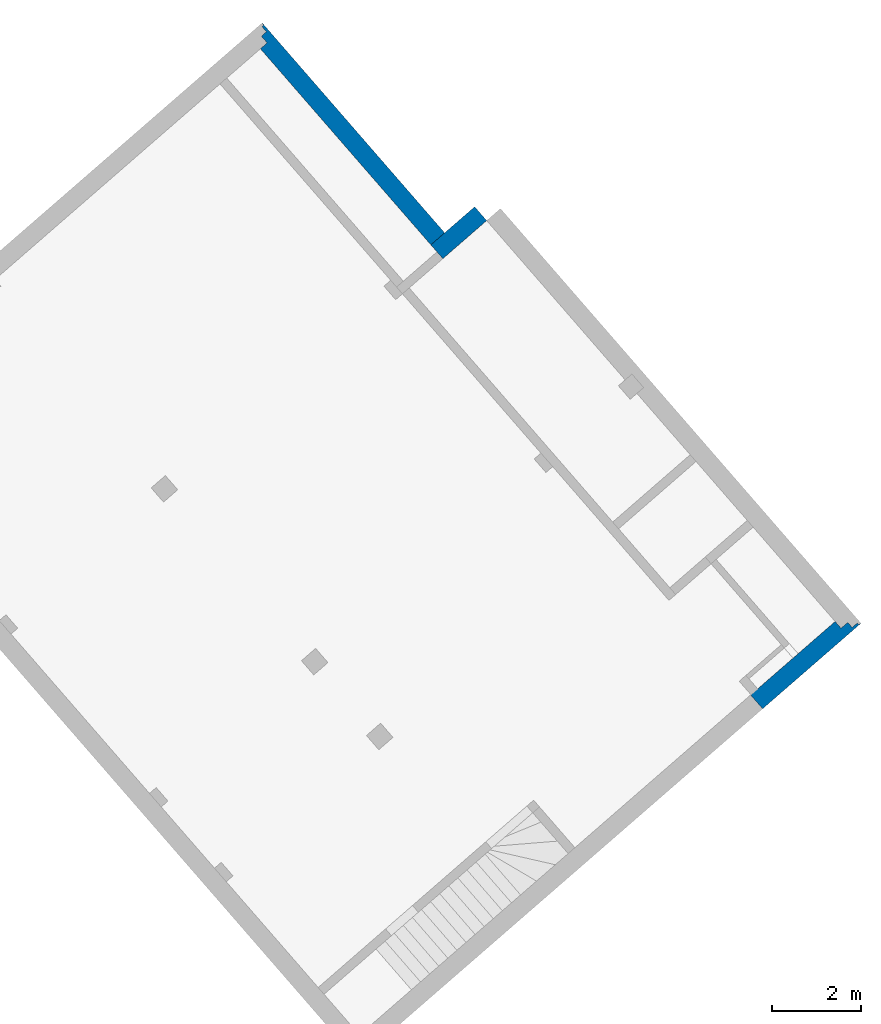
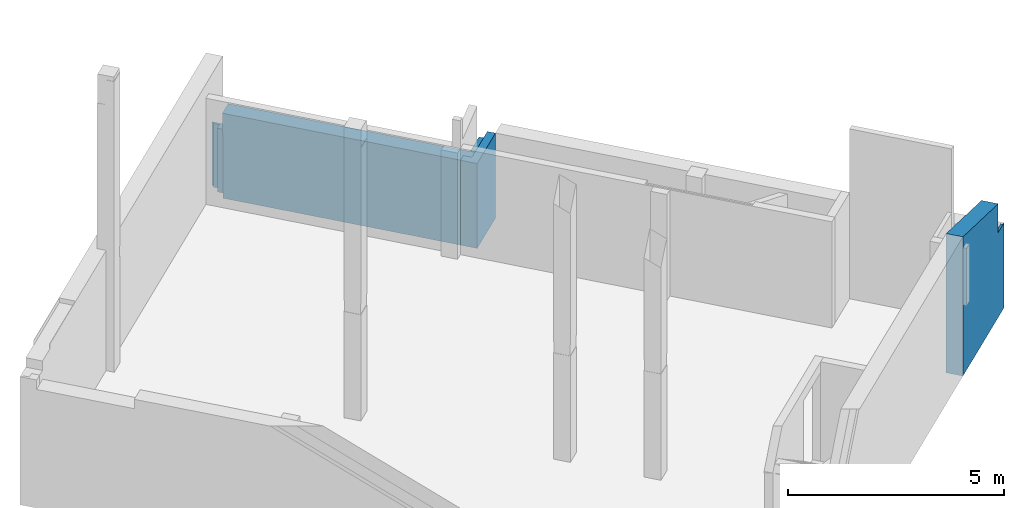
# One storey, part 4 of 4: 3 walls.
"""IFC2X3 building model written with IfcOpenShell, lengths in millimetres."""

import ifcopenshell
import ifcopenshell.guid

model = None  # the IFC model being written
_history = None  # IfcOwnerHistory: only IFC2X3 demands one
_inside = {}  # id of a spatial element -> (the spatial element, [elements in it])
_under = {}  # id of a project, library or spatial element -> (it, [spatial elements below it])
_declared = {}  # id of a project -> (the project, [libraries it declares])
_typed = {}  # id of a type object -> (the type object, [elements of that type])
_made_of = {}  # id of a material, layer set ... -> (it, [elements and type objects made of it])


def new_model(schema):
    """Start an empty IFC model of exactly this schema.

    Asked for "IFC4X3", IfcOpenShell would pick the latest addendum, in which some entities
    have other attributes; the version numbers below select the first issue.
    IFC2X3 requires an IfcOwnerHistory on every rooted entity: one is made here for all.
    """
    global model, _history
    if schema == "IFC4X3":
        model = ifcopenshell.file(schema_version=(4, 3, 0, 0))
    else:
        model = ifcopenshell.file(schema=schema)
    _inside.clear()
    _under.clear()
    _declared.clear()
    _typed.clear()
    _made_of.clear()
    _history = None
    if model.schema == "IFC2X3":
        org = make("IfcOrganization", Name="unknown")
        user = make(
            "IfcPersonAndOrganization",
            ThePerson=make("IfcPerson", FamilyName="unknown"),
            TheOrganization=org,
        )
        app = make(
            "IfcApplication",
            ApplicationDeveloper=org,
            Version="unknown",
            ApplicationFullName="unknown",
            ApplicationIdentifier="unknown",
        )
        _history = make(
            "IfcOwnerHistory",
            OwningUser=user,
            OwningApplication=app,
            ChangeAction="ADDED",
            CreationDate=0,
        )
    return model


def make(cls, **values):
    """One entity of the class cls with the attributes given. An attribute that is None is left unset."""
    return model.create_entity(
        cls, **{name: value for name, value in values.items() if value is not None}
    )


def entity(cls, *values):
    """Any entity or typed value of the class cls, its attributes in the order of the schema. None: left unset."""
    e = model.create_entity(cls)
    for i, value in enumerate(values):
        if value is not None:
            e[i] = value
    return e


def rooted(cls, **values):
    """An entity with a GlobalId (a new one), such as an element, a storey or a relation."""
    return make(cls, GlobalId=ifcopenshell.guid.new(), OwnerHistory=_history, **values)


def si_unit(unit_type, name, prefix=None):
    """IfcSIUnit, for example si_unit("LENGTHUNIT", "METRE", prefix="MILLI")."""
    return make("IfcSIUnit", UnitType=unit_type, Prefix=prefix, Name=name)


def converted_unit(unit_type, name, factor, base, dimensions=None, offset=None):
    """IfcConversionBasedUnit, such as the inch: factor (a typed value) times the base unit."""
    return make(
        "IfcConversionBasedUnit"
        if offset is None
        else "IfcConversionBasedUnitWithOffset",
        ConversionOffset=offset,
        Dimensions=None
        if dimensions is None
        else entity("IfcDimensionalExponents", *dimensions),
        UnitType=unit_type,
        Name=name,
        ConversionFactor=make(
            "IfcMeasureWithUnit", ValueComponent=factor, UnitComponent=base
        ),
    )


def derived_unit(unit_type, elements):
    """IfcDerivedUnit: a product of units, each with its exponent."""
    return make(
        "IfcDerivedUnit",
        Elements=[
            make("IfcDerivedUnitElement", Unit=unit, Exponent=power)
            for unit, power in elements
        ],
        UnitType=unit_type,
    )


def money_unit(currency):
    """IfcMonetaryUnit."""
    return make("IfcMonetaryUnit", Currency=currency)


def assignment(units):
    """IfcUnitAssignment: the units of a project."""
    return None if units is None else make("IfcUnitAssignment", Units=units)


def point(xyz):
    """IfcCartesianPoint."""
    return None if xyz is None else make("IfcCartesianPoint", Coordinates=xyz)


def direction(xyz):
    """IfcDirection."""
    return None if xyz is None else make("IfcDirection", DirectionRatios=xyz)


def frame(location, z_axis=None, x_axis=None):
    """IfcAxis2Placement3D, a coordinate frame: its origin and axes. An axis left out is left unset."""
    return make(
        "IfcAxis2Placement3D",
        Location=point(location),
        Axis=direction(z_axis),
        RefDirection=direction(x_axis),
    )


def origin_with_axes():
    """The frame at (0, 0, 0) with the z axis (0, 0, 1) and the x axis (1, 0, 0) written out."""
    return frame((0.0, 0.0, 0.0), z_axis=(0.0, 0.0, 1.0), x_axis=(1.0, 0.0, 0.0))


def place(relative_to, where):
    """IfcLocalPlacement: puts the frame where relative to a parent placement (None: the world)."""
    return make(
        "IfcLocalPlacement", PlacementRelTo=relative_to, RelativePlacement=where
    )


def context(
    kind, dimensions, precision=None, world=None, true_north=None, identifier=None
):
    """IfcGeometricRepresentationContext, for example the 3D "Model" context."""
    return make(
        "IfcGeometricRepresentationContext",
        ContextIdentifier=identifier,
        ContextType=kind,
        CoordinateSpaceDimension=dimensions,
        Precision=precision,
        WorldCoordinateSystem=world,
        TrueNorth=true_north,
    )


def subcontext(parent, identifier, kind, view, scale=None):
    """IfcGeometricRepresentationSubContext, for example "Body" below "Model"."""
    return make(
        "IfcGeometricRepresentationSubContext",
        ContextIdentifier=identifier,
        ContextType=kind,
        ParentContext=parent,
        TargetScale=scale,
        TargetView=view,
    )


def project(units=None, contexts=None):
    """IfcProject with its units and contexts."""
    return rooted(
        "IfcProject",
        Name="project",
        RepresentationContexts=contexts,
        UnitsInContext=assignment(units),
    )


def spatial(cls, under=None, at=None, **own):
    """A site, building, storey or space (cls), placed at a placement, below another one or the project."""
    s = rooted(cls, ObjectPlacement=at, **own)
    if under is not None:
        _under.setdefault(under.id(), (under, []))[1].append(s)
    return s


def faces_of(points, faces, orient=None, outer=None):
    """IfcFace entities. A face is a list of loops; a loop is a list of indices into points, from 0.

    orient and outer hold one flag for each loop. By default every Orientation is true, the
    first loop of a face is its IfcFaceOuterBound and the others are IfcFaceBound.
    """
    made = []
    for i, loops in enumerate(faces):
        bounds = []
        for j, loop in enumerate(loops):
            is_outer = j == 0 if outer is None else outer[i][j]
            bounds.append(
                make(
                    "IfcFaceOuterBound" if is_outer else "IfcFaceBound",
                    Bound=make("IfcPolyLoop", Polygon=[points[k] for k in loop]),
                    Orientation=True if orient is None else orient[i][j],
                )
            )
        made.append(make("IfcFace", Bounds=bounds))
    return made


def faceted_brep(points, faces, orient=None, outer=None, voids=None):
    """IfcFacetedBrep: a solid bounded by flat faces; with voids (closed shells), ...WithVoids."""
    shared = [point(p) for p in points]
    hull = make("IfcClosedShell", CfsFaces=faces_of(shared, faces, orient, outer))
    if voids is None:
        return make("IfcFacetedBrep", Outer=hull)
    return make(
        "IfcFacetedBrepWithVoids",
        Outer=hull,
        Voids=[
            make(cls, CfsFaces=faces_of(shared, fs, o, b)) for cls, fs, o, b in voids
        ],
    )


def shape(context_of_items, identifier, shape_type, items):
    """IfcShapeRepresentation: the items that make up one representation, for example the "Body"."""
    return make(
        "IfcShapeRepresentation",
        ContextOfItems=context_of_items,
        RepresentationIdentifier=identifier,
        RepresentationType=shape_type,
        Items=items,
    )


def material(Name=None, Category=None):
    """IfcMaterial."""
    return make("IfcMaterial", Name=Name, Category=Category)


def material_list(materials):
    """IfcMaterialList."""
    return make("IfcMaterialList", Materials=materials)


def made_of(thing, what):
    """Note that an element or type object is made of a material, layer set ...; save() writes the relation."""
    if what is not None:
        _made_of.setdefault(what.id(), (what, []))[1].append(thing)
    return thing


def type_object(cls, material=None, **own):
    """A type object (cls), such as IfcWallType, which elements share."""
    return made_of(rooted(cls, **own), material)


def element(
    cls,
    number,
    at=None,
    inside=None,
    cuts=None,
    type_object=None,
    material=None,
    context=None,
    identifier="Body",
    shape_type=None,
    held_by="IfcProductDefinitionShape",
    body=None,
    shapes=None,
    **own,
):
    """One element of the class cls, such as IfcWall. Its Tag is "e" and its number.

    at: its placement. inside: the storey or other place that contains it. cuts: it is an
    opening in that element (IfcRelVoidsElement). A single representation is given by context,
    identifier, shape_type and body (its items); several are given by shapes. held_by: the class
    of the entity that holds the representations. save() writes the other relations.
    """
    e = rooted(cls, Tag="e%d" % number, ObjectPlacement=at, **own)
    if body is not None:
        shapes = [shape(context, identifier, shape_type, body)]
    if shapes is not None:
        e.Representation = make(held_by, Representations=shapes)
    if inside is not None:
        _inside.setdefault(inside.id(), (inside, []))[1].append(e)
    if cuts is not None:
        rooted(
            "IfcRelVoidsElement", RelatingBuildingElement=cuts, RelatedOpeningElement=e
        )
    if type_object is not None:
        _typed.setdefault(type_object.id(), (type_object, []))[1].append(e)
    return made_of(e, material)


def aggregate(whole, parts):
    """IfcRelAggregates: a whole, such as a stair, and the parts it consists of."""
    return rooted("IfcRelAggregates", RelatingObject=whole, RelatedObjects=parts)


def save(model, path):
    """Write the relations noted so far, then the file.

    IfcRelAggregates (storeys below a building ...), IfcRelContainedInSpatialStructure (elements
    in a storey), IfcRelDefinesByType, IfcRelAssociatesMaterial and IfcRelDeclares: one each for
    every whole, place, type object, material and project.
    """
    for whole, parts in _under.values():
        aggregate(whole, parts)
    for where, things in _inside.values():
        rooted(
            "IfcRelContainedInSpatialStructure",
            RelatedElements=things,
            RelatingStructure=where,
        )
    for kind, things in _typed.values():
        rooted("IfcRelDefinesByType", RelatedObjects=things, RelatingType=kind)
    for what, things in _made_of.values():
        rooted("IfcRelAssociatesMaterial", RelatedObjects=things, RelatingMaterial=what)
    for by, libraries in _declared.values():
        rooted("IfcRelDeclares", RelatingContext=by, RelatedDefinitions=libraries)
    model.write(path)


model = new_model("IFC2X3")

# Units and contexts
model_context = context("Model", 3, precision=1e-05, world=origin_with_axes(), true_north=direction((0.0, 1.0)))
body_context = subcontext(model_context, "Body", "Model", "MODEL_VIEW")
ifc_project = project(units=[si_unit("LENGTHUNIT", "METRE", prefix="MILLI"), si_unit("AREAUNIT", "SQUARE_METRE"), si_unit("VOLUMEUNIT", "CUBIC_METRE"), converted_unit("PLANEANGLEUNIT", "DEGREE", entity("IfcPlaneAngleMeasure", 0.0174532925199), si_unit("PLANEANGLEUNIT", "RADIAN"), dimensions=[0, 0, 0, 0, 0, 0, 0]), si_unit("SOLIDANGLEUNIT", "STERADIAN"), money_unit("EUR"), converted_unit("TIMEUNIT", "Year", entity("IfcTimeMeasure", 31556926.0), si_unit("TIMEUNIT", "SECOND"), dimensions=[0, 0, 1, 0, 0, 0, 0]), si_unit("MASSUNIT", "GRAM", prefix="KILO"), si_unit("THERMODYNAMICTEMPERATUREUNIT", "DEGREE_CELSIUS"), si_unit("LUMINOUSINTENSITYUNIT", "LUMEN"), si_unit("ENERGYUNIT", "JOULE", prefix="MEGA"), derived_unit("THERMALCONDUCTANCEUNIT", [(si_unit("POWERUNIT", "WATT"), 1), (si_unit("LENGTHUNIT", "METRE"), -1), (si_unit("THERMODYNAMICTEMPERATUREUNIT", "KELVIN"), -1)]), derived_unit("SPECIFICHEATCAPACITYUNIT", [(si_unit("ENERGYUNIT", "JOULE"), 1), (si_unit("MASSUNIT", "GRAM", prefix="KILO"), -1), (si_unit("THERMODYNAMICTEMPERATUREUNIT", "KELVIN"), -1)]), derived_unit("MASSDENSITYUNIT", [(si_unit("MASSUNIT", "GRAM", prefix="KILO"), 1), (si_unit("VOLUMEUNIT", "CUBIC_METRE"), -1)])], contexts=[model_context])

# Site, building, storey
site_placement = place(None, origin_with_axes())
site = spatial("IfcSite", under=ifc_project, at=site_placement, Name="Site", CompositionType="ELEMENT")
building_placement = place(site_placement, origin_with_axes())
building = spatial("IfcBuilding", under=site, at=building_placement, Name="Building", CompositionType="ELEMENT")
storey_placement = place(building_placement, frame((0.0, 0.0, -3415.0), z_axis=(0.0, 0.0, 1.0), x_axis=(1.0, 0.0, 0.0)))
storey = spatial("IfcBuildingStorey", under=building, at=storey_placement, Name="-1 korrus", CompositionType="ELEMENT", Elevation=-3415.0)

# Walls
ifc_material_1 = material(Name="Raudbetoon - Konstruktsioon")
ifc_material_2 = material(Name="Soojustus - Plastik Kõva")
ifc_material_3 = material(Name="Membraan - Veekindel")
ifc_material_list_1 = material_list([ifc_material_1, ifc_material_2, ifc_material_2, ifc_material_3, ifc_material_3])
wall_type = type_object("IfcWallType", Name="VS-03*", PredefinedType="NOTDEFINED")
wall_1_placement = place(storey_placement, frame((148483.870426, 74397.3234318, -620.0), z_axis=(0.0, 0.0, 1.0), x_axis=(0.754706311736, 0.656062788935, 0.0)))
element("IfcWall", 1, at=wall_1_placement, inside=storey, type_object=wall_type, material=ifc_material_list_1, Name="VS-03*", context=body_context, shape_type="Brep", body=[
    faceted_brep([(2510.00230641, -1.34109967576e-06, 3207.86317482), (2510.00212465, -200.000008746, 3207.86293883), (2510.00132277, -200.0, 0.0), (2510.00230641, 0.0, 0.0), (2510.00230641, -1.34109967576e-06, 2400.0), (0.000100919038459, -200.000000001, 3935.00034836), (0.000178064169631, -8.881784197e-10, 3935.00061466), (0.0, -200.0, 0.0), (0.0, 0.0, 0.0)], [[[0, 1, 2, 3, 4]], [[5, 1, 0, 6]], [[1, 5, 7, 2]], [[8, 3, 2, 7]], [[6, 0, 4, 3, 8]], [[5, 6, 8, 7]]]),
    faceted_brep([(2510.00230641, -200.000010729, 3207.86288618), (2510.00230641, -350.0, 3207.86266969), (2510.00230641, -350.0, 2400.0), (2510.00230641, -200.000010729, 2400.0), (4.30602256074e-05, -350.0, 3935.00014864), (0.000100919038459, -200.000000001, 3935.00034836), (0.0, -350.0, 0.0), (2710.00058504, -350.0, 0.0), (2710.00058504, -350.0, 2400.0), (2710.00132278, -200.000010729, 2400.0), (2710.00132278, -200.0, 0.0), (0.0, -200.0, 0.0)], [[[0, 1, 2, 3]], [[4, 1, 0, 5]], [[1, 4, 6, 7, 8, 2]], [[2, 8, 9, 3]], [[5, 0, 3, 9, 10, 11]], [[4, 5, 11, 6]], [[11, 10, 7, 6]], [[10, 9, 8, 7]]]),
    faceted_brep([(2510.00230641, -350.0, 3207.86266969), (2510.00230641, -399.999997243, 3207.86259753), (2510.00230641, -399.999997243, 2400.0), (2510.00230641, -350.0, 2400.0), (2.3773935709e-05, -400.0, 3935.00008207), (4.30602256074e-05, -350.0, 3935.00014864), (0.0, -400.0, 0.0), (2860.00033914, -400.0, 0.0), (2860.00033914, -399.999997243, 2400.0), (2860.00058505, -350.0, 2400.0), (2860.00058505, -350.0, 0.0), (0.0, -350.0, 0.0)], [[[0, 1, 2, 3]], [[4, 1, 0, 5]], [[1, 4, 6, 7, 8, 2]], [[2, 8, 9, 3]], [[5, 0, 3, 9, 10, 11]], [[4, 5, 11, 6]], [[11, 10, 7, 6]], [[10, 9, 8, 7]]]),
    faceted_brep([(2510.00230641, -399.999997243, 3207.86259753), (2510.00230641, -405.0, 3207.86259031), (2510.00230641, -405.0, 2400.0), (2510.00230641, -399.999997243, 2400.0), (2.18452953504e-05, -405.0, 3935.00007541), (2.3773935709e-05, -400.0, 3935.00008207), (0.0, -405.0, 0.0), (2910.00031455, -405.0, 0.0), (2910.00031455, -405.0, 2400.0), (2910.00033914, -399.999997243, 2400.0), (2910.00033914, -400.0, 0.0), (0.0, -400.0, 0.0)], [[[0, 1, 2, 3]], [[4, 1, 0, 5]], [[1, 4, 6, 7, 8, 2]], [[2, 8, 9, 3]], [[5, 0, 3, 9, 10, 11]], [[4, 5, 11, 6]], [[11, 10, 7, 6]], [[10, 9, 8, 7]]]),
    faceted_brep([(2510.00230641, -405.0, 3207.86259031), (2510.00230641, -410.0, 3207.8625831), (2510.00230641, -410.0, 2400.0), (2510.00230641, -405.0, 2400.0), (1.99166834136e-05, -410.0, 3935.00006875), (2.18452953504e-05, -405.0, 3935.00007541), (0.0, -410.0, 0.0), (2915.00028996, -410.0, 0.0), (2915.00028996, -410.0, 2400.0), (2915.00031455, -405.0, 2400.0), (2915.00031455, -405.0, 0.0), (0.0, -405.0, 0.0)], [[[0, 1, 2, 3]], [[4, 1, 0, 5]], [[1, 4, 6, 7, 8, 2]], [[2, 8, 9, 3]], [[5, 0, 3, 9, 10, 11]], [[4, 5, 11, 6]], [[11, 10, 7, 6]], [[10, 9, 8, 7]]]),
])
ifc_material_list_2 = material_list([ifc_material_3, ifc_material_3, ifc_material_2, ifc_material_2, ifc_material_1])
wall_2_placement = place(storey_placement, frame((141589.963684, 84172.2056975, -620.0), z_axis=(0.0, 0.0, 1.0), x_axis=(0.754709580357, 0.656059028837, 0.0)))
element("IfcWall", 2, at=wall_2_placement, inside=storey, type_object=wall_type, material=ifc_material_list_2, Name="VS-03*", context=body_context, shape_type="Brep", body=[
    faceted_brep([(1299.99924273, 410.0, 1800.0), (1299.99924273, 405.0, 1800.0), (1299.99924273, 405.0, 0.0), (1299.99924273, 410.0, 0.0), (200.000002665, 405.0, 1800.0), (200.000002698, 410.0, 1800.0), (200.000002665, 405.0, 2400.0), (0.0, 405.0, 2400.0), (0.0, 405.0, 0.0), (0.0, 410.0, 0.0), (0.0, 410.0, 2400.0), (200.000002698, 410.0, 2400.0)], [[[0, 1, 2, 3]], [[4, 1, 0, 5]], [[4, 6, 7, 8, 2, 1]], [[9, 3, 2, 8]], [[5, 0, 3, 9, 10, 11]], [[4, 5, 11, 6]], [[6, 11, 10, 7]], [[10, 9, 8, 7]]]),
    faceted_brep([(1299.99924273, 405.0, 2200.0), (1299.99924273, 400.0, 2200.0), (1299.99924273, 400.0, 0.0), (1299.99924273, 405.0, 0.0), (200.000002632, 400.0, 2200.0), (200.000002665, 405.0, 2200.0), (200.000002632, 400.0, 2400.0), (0.0, 400.0, 2400.0), (0.0, 400.0, 0.0), (0.0, 405.0, 0.0), (0.0, 405.0, 2400.0), (200.000002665, 405.0, 2400.0)], [[[0, 1, 2, 3]], [[4, 1, 0, 5]], [[4, 6, 7, 8, 2, 1]], [[9, 3, 2, 8]], [[5, 0, 3, 9, 10, 11]], [[11, 6, 4, 5]], [[6, 11, 10, 7]], [[10, 9, 8, 7]]]),
    faceted_brep([(1299.99924273, 400.0, 2200.0), (1299.99924273, 350.0, 2200.0), (1299.99924273, 350.0, 0.0), (1299.99924273, 400.0, 0.0), (200.000002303, 350.0, 2200.0), (200.000002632, 400.0, 2200.0), (200.000002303, 350.0, 2400.0), (0.0, 350.0, 2400.0), (0.0, 350.0, 0.0), (0.0, 400.0, 0.0), (0.0, 400.0, 2400.0), (200.000002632, 400.0, 2400.0)], [[[0, 1, 2, 3]], [[4, 1, 0, 5]], [[4, 6, 7, 8, 2, 1]], [[9, 3, 2, 8]], [[5, 0, 3, 9, 10, 11]], [[11, 6, 4, 5]], [[6, 11, 10, 7]], [[10, 9, 8, 7]]]),
    faceted_brep([(1299.99924273, 350.0, 2200.0), (1299.99924273, 200.0, 2200.0), (1299.99924273, 200.0, 0.0), (1299.99924273, 350.0, 0.0), (200.000001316, 200.0, 2200.0), (200.000002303, 350.0, 2200.0), (200.000001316, 200.0, 2400.0), (0.0, 200.0, 2400.0), (0.0, 200.0, 0.0), (0.0, 350.0, 0.0), (0.0, 350.0, 2400.0), (200.000002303, 350.0, 2400.0)], [[[0, 1, 2, 3]], [[4, 1, 0, 5]], [[4, 6, 7, 8, 2, 1]], [[9, 3, 2, 8]], [[5, 0, 3, 9, 10, 11]], [[11, 6, 4, 5]], [[6, 11, 10, 7]], [[10, 9, 8, 7]]]),
    faceted_brep([(1299.99924273, 200.0, 0.0), (1299.99924273, 0.0, 0.0), (0.0, 0.0, 0.0), (0.0, 200.0, 0.0), (1299.99924273, 200.0, 2400.0), (1299.99924273, 0.0, 2400.0), (0.0, 0.0, 2400.0), (0.0, 200.0, 2400.0)], [[[0, 1, 2, 3]], [[0, 4, 5, 1]], [[1, 5, 6, 2]], [[3, 2, 6, 7]], [[4, 0, 3, 7]], [[5, 4, 7, 6]]]),
])
wall_3_placement = place(storey_placement, frame((141589.963684, 84172.2056975, -620.0), z_axis=(0.0, 0.0, 1.0), x_axis=(-0.656059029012, 0.754709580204, 0.0)))
element("IfcWall", 3, at=wall_3_placement, inside=storey, type_object=wall_type, material=ifc_material_list_1, Name="VS-03*", context=body_context, shape_type="Brep", body=[
    faceted_brep([(6239.999999, -200.0, 1800.0), (6239.999999, -200.0, 2400.0), (0.0, -200.0, 2400.0), (0.0, -200.0, 0.0), (6229.99999812, -200.0, 0.0), (6229.99999812, -200.0, 1800.0), (6239.99999899, 0.0, 2400.0), (6239.99999899, 0.0, 1800.0), (0.0, 0.0, 2400.0), (0.0, 0.0, 0.0), (6229.99999812, 0.0, 0.0), (6229.99999812, 0.0, 1800.0)], [[[0, 1, 2, 3, 4, 5]], [[6, 1, 0, 7]], [[1, 6, 8, 2]], [[9, 3, 2, 8]], [[10, 4, 3, 9]], [[5, 4, 10, 11]], [[7, 0, 5, 11]], [[6, 7, 11, 10, 9, 8]]]),
    faceted_brep([(6429.99999812, -350.0, 1800.0), (6239.99999901, -350.0, 1800.0), (6239.99999901, -350.0, 2400.0), (0.0, -350.0, 2400.0), (0.0, -350.0, 0.0), (6429.99999812, -350.0, 0.0), (6429.99999812, -200.0, 1800.0), (6239.999999, -200.0, 1800.0), (6239.999999, -200.0, 2400.0), (0.0, -200.0, 2400.0), (0.0, -200.0, 0.0), (6429.99999812, -200.0, 0.0)], [[[0, 1, 2, 3, 4, 5]], [[1, 0, 6, 7]], [[8, 2, 1, 7]], [[2, 8, 9, 3]], [[10, 4, 3, 9]], [[11, 5, 4, 10]], [[6, 0, 5, 11]], [[7, 6, 11, 10, 9, 8]]]),
    faceted_brep([(6239.99999901, -400.0, 1800.0), (6239.99999901, -400.0, 2400.0), (0.0, -400.0, 2400.0), (0.0, -400.0, 0.0), (6579.99999812, -400.0, 0.0), (6579.99999812, -400.0, 1800.0), (6239.99999901, -350.0, 2400.0), (6239.99999901, -350.0, 1800.0), (0.0, -350.0, 2400.0), (0.0, -350.0, 0.0), (6579.99999812, -350.0, 0.0), (6579.99999812, -350.0, 1800.0)], [[[0, 1, 2, 3, 4, 5]], [[6, 1, 0, 7]], [[1, 6, 8, 2]], [[9, 3, 2, 8]], [[10, 4, 3, 9]], [[11, 5, 4, 10]], [[7, 0, 5, 11]], [[7, 11, 10, 9, 8, 6]]]),
    faceted_brep([(6239.99999901, -405.0, 1800.0), (6239.99999901, -405.0, 2400.0), (0.0, -405.0, 2400.0), (0.0, -405.0, 0.0), (6629.99999812, -405.0, 0.0), (6629.99999812, -405.0, 1800.0), (6239.99999901, -400.0, 2400.0), (6239.99999901, -400.0, 1800.0), (0.0, -400.0, 2400.0), (0.0, -400.0, 0.0), (6629.99999812, -400.0, 0.0), (6629.99999812, -400.0, 1800.0)], [[[0, 1, 2, 3, 4, 5]], [[6, 1, 0, 7]], [[1, 6, 8, 2]], [[9, 3, 2, 8]], [[10, 4, 3, 9]], [[11, 5, 4, 10]], [[7, 0, 5, 11]], [[7, 11, 10, 9, 8, 6]]]),
    faceted_brep([(6239.99999901, -410.0, 1800.0), (6239.99999901, -410.0, 2400.0), (0.0, -410.0, 2400.0), (0.0, -410.0, 0.0), (6634.99999812, -410.0, 0.0), (6634.99999812, -410.0, 1800.0), (6239.99999901, -405.0, 2400.0), (6239.99999901, -405.0, 1800.0), (0.0, -405.0, 2400.0), (0.0, -405.0, 0.0), (6634.99999812, -405.0, 0.0), (6634.99999812, -405.0, 1800.0)], [[[0, 1, 2, 3, 4, 5]], [[6, 1, 0, 7]], [[1, 6, 8, 2]], [[9, 3, 2, 8]], [[10, 4, 3, 9]], [[11, 5, 4, 10]], [[7, 0, 5, 11]], [[7, 11, 10, 9, 8, 6]]]),
])

save(model, "model.ifc")
